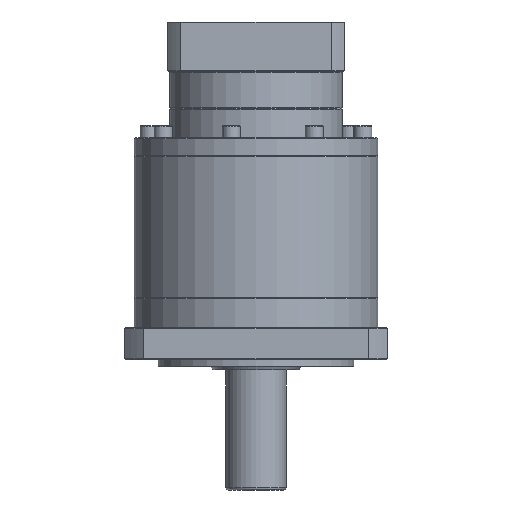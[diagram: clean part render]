
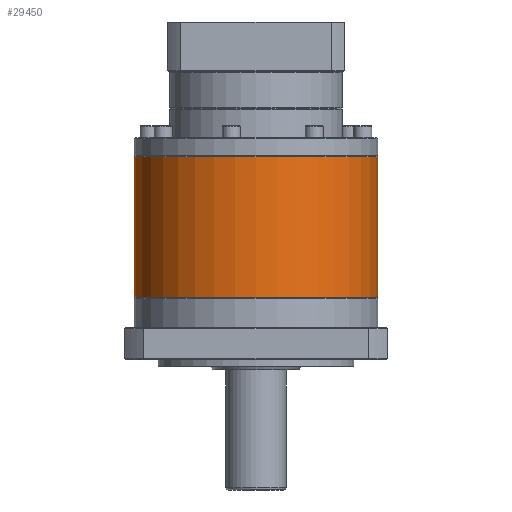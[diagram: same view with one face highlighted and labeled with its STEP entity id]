
A CAD part, front view. The second image highlights one B-rep face of the part: STEP entity #29450.
In plain terms, the highlighted cylindrical face has radius 81 mm (diameter 162 mm), a partial arc.
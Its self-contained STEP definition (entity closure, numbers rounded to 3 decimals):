
#9774 = ORIENTED_EDGE ( 'NONE', *, *, #77224, .T. ) ;
#13329 = CARTESIAN_POINT ( 'NONE',  ( -42.839, 0., -33.7 ) ) ;
#13783 = EDGE_CURVE ( 'NONE', #88016, #99874, #69349, .T. ) ;
#19823 = CARTESIAN_POINT ( 'NONE',  ( -42.839, 0., 59.8 ) ) ;
#21487 = DIRECTION ( 'NONE',  ( -1., 0., 0. ) ) ;
#23039 = LINE ( 'NONE', #30422, #34649 ) ;
#24525 = CARTESIAN_POINT ( 'NONE',  ( 38.161, 0., -33.7 ) ) ;
#29450 = ADVANCED_FACE ( 'NONE', ( #88717 ), #61536, .T. ) ;
#30422 = CARTESIAN_POINT ( 'NONE',  ( -42.839, 0., 60.3 ) ) ;
#30833 = ORIENTED_EDGE ( 'NONE', *, *, #47279, .T. ) ;
#31904 = AXIS2_PLACEMENT_3D ( 'NONE', #88597, #70875, #21487 ) ;
#34649 = VECTOR ( 'NONE', #70836, 1000. ) ;
#34729 = DIRECTION ( 'NONE',  ( 0., 0., -1. ) ) ;
#39628 = VECTOR ( 'NONE', #39880, 1000. ) ;
#39880 = DIRECTION ( 'NONE',  ( 0., 0., -1. ) ) ;
#42660 = CARTESIAN_POINT ( 'NONE',  ( 38.161, 0., 59.8 ) ) ;
#47194 = EDGE_LOOP ( 'NONE', ( #51409, #9774, #69336, #30833 ) ) ;
#47279 = EDGE_CURVE ( 'NONE', #80124, #99874, #87227, .T. ) ;
#50924 = CARTESIAN_POINT ( 'NONE',  ( 119.161, 0., 59.8 ) ) ;
#51409 = ORIENTED_EDGE ( 'NONE', *, *, #13783, .F. ) ;
#53606 = EDGE_CURVE ( 'NONE', #93043, #80124, #23039, .T. ) ;
#57734 = DIRECTION ( 'NONE',  ( 0., 0., 1. ) ) ;
#61536 = CYLINDRICAL_SURFACE ( 'NONE', #31904, 81. ) ;
#66078 = AXIS2_PLACEMENT_3D ( 'NONE', #24525, #57734, #82254 ) ;
#69336 = ORIENTED_EDGE ( 'NONE', *, *, #53606, .T. ) ;
#69349 = LINE ( 'NONE', #96996, #39628 ) ;
#70087 = AXIS2_PLACEMENT_3D ( 'NONE', #42660, #34729, #76200 ) ;
#70836 = DIRECTION ( 'NONE',  ( 0., 0., -1. ) ) ;
#70875 = DIRECTION ( 'NONE',  ( 0., 0., -1. ) ) ;
#76200 = DIRECTION ( 'NONE',  ( -1., 0., 0. ) ) ;
#77224 = EDGE_CURVE ( 'NONE', #88016, #93043, #106117, .T. ) ;
#80124 = VERTEX_POINT ( 'NONE', #13329 ) ;
#82254 = DIRECTION ( 'NONE',  ( -1., 0., 0. ) ) ;
#87227 = CIRCLE ( 'NONE', #66078, 81. ) ;
#88016 = VERTEX_POINT ( 'NONE', #50924 ) ;
#88597 = CARTESIAN_POINT ( 'NONE',  ( 38.161, 0., 60.3 ) ) ;
#88717 = FACE_OUTER_BOUND ( 'NONE', #47194, .T. ) ;
#93043 = VERTEX_POINT ( 'NONE', #19823 ) ;
#96996 = CARTESIAN_POINT ( 'NONE',  ( 119.161, 0., 60.3 ) ) ;
#99874 = VERTEX_POINT ( 'NONE', #100839 ) ;
#100839 = CARTESIAN_POINT ( 'NONE',  ( 119.161, 0., -33.7 ) ) ;
#106117 = CIRCLE ( 'NONE', #70087, 81. ) ;
